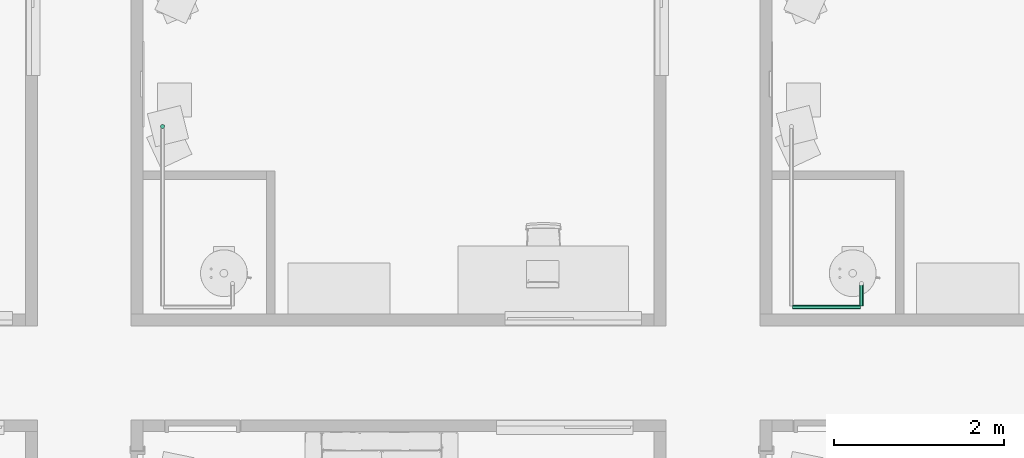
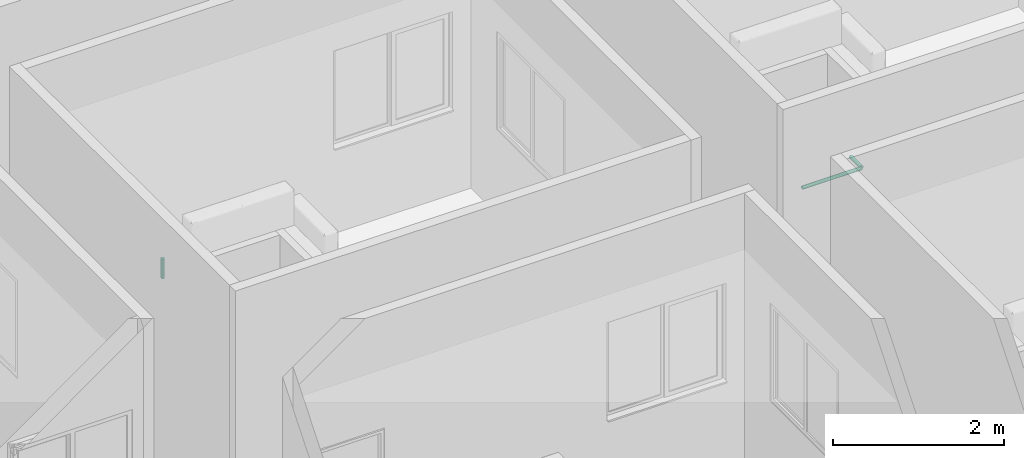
# One storey, part 49 of 72: 3 pipe segments.
"""IFC4 building model written with IfcOpenShell, lengths in centimetres."""

from ifc_helpers import new_model, entity, si_unit, converted_unit, derived_unit, direction, frame, origin, place, context, subcontext, project, spatial, arc, indexed_curve, outline, extrude, type_object, element, save


model = new_model("IFC4")

# Units and contexts
model_context = context("Model", 3, precision=0.001, world=origin(), true_north=direction((6.123233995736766e-17, 1.0)))
body_context = subcontext(model_context, "Body", "Model", "MODEL_VIEW")
ifc_project = project(units=[si_unit("LENGTHUNIT", "METRE", prefix="CENTI"), si_unit("AREAUNIT", "SQUARE_METRE"), si_unit("VOLUMEUNIT", "CUBIC_METRE"), derived_unit("THERMALTRANSMITTANCEUNIT", [(si_unit("MASSUNIT", "GRAM", prefix="KILO"), 1), (si_unit("THERMODYNAMICTEMPERATUREUNIT", "KELVIN"), -1), (si_unit("TIMEUNIT", "SECOND"), -3)]), converted_unit("PLANEANGLEUNIT", "DEGREE", entity("IfcPlaneAngleMeasure", 0.017453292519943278), si_unit("PLANEANGLEUNIT", "RADIAN"), dimensions=[0, 0, 0, 0, 0, 0, 0]), derived_unit("MASSDENSITYUNIT", [(si_unit("MASSUNIT", "GRAM", prefix="KILO"), 1), (si_unit("LENGTHUNIT", "METRE"), -3)]), derived_unit("VAPORPERMEABILITYUNIT", [(si_unit("LENGTHUNIT", "METRE"), -1), (si_unit("TIMEUNIT", "SECOND"), 1)]), derived_unit("USERDEFINED", [(si_unit("MASSUNIT", "GRAM", prefix="KILO"), 1), (si_unit("TIMEUNIT", "SECOND"), -3), (si_unit("LENGTHUNIT", "METRE"), 3), (si_unit("ELECTRICCURRENTUNIT", "AMPERE"), -2)]), derived_unit("SPECIFICHEATCAPACITYUNIT", [(si_unit("THERMODYNAMICTEMPERATUREUNIT", "KELVIN"), -1), (si_unit("LENGTHUNIT", "METRE"), 2), (si_unit("TIMEUNIT", "SECOND"), -2)]), derived_unit("THERMALCONDUCTANCEUNIT", [(si_unit("MASSUNIT", "GRAM", prefix="KILO"), 1), (si_unit("THERMODYNAMICTEMPERATUREUNIT", "KELVIN"), -1), (si_unit("TIMEUNIT", "SECOND"), -3), (si_unit("LENGTHUNIT", "METRE"), 1)]), si_unit("PRESSUREUNIT", "PASCAL"), derived_unit("MODULUSOFELASTICITYUNIT", [(si_unit("MASSUNIT", "GRAM", prefix="KILO"), 1), (si_unit("LENGTHUNIT", "METRE"), -1), (si_unit("TIMEUNIT", "SECOND"), -2)]), derived_unit("THERMALEXPANSIONCOEFFICIENTUNIT", [(si_unit("THERMODYNAMICTEMPERATUREUNIT", "KELVIN"), -1)])], contexts=[model_context])

# Site, building, storey
site_placement = place(None, origin())
site = spatial("IfcSite", under=ifc_project, at=site_placement, Name="Default", CompositionType="ELEMENT")
building_placement = place(site_placement, origin())
building = spatial("IfcBuilding", under=site, at=building_placement, Name="IDS Escape Game Building", CompositionType="ELEMENT")
storey_placement = place(building_placement, frame((0.0, 0.0, 800.0)))
storey = spatial("IfcBuildingStorey", under=building, at=storey_placement, Name="02_Second Floor", CompositionType="ELEMENT", Elevation=800.0)

# Pipe segments
pipe_segment_type = type_object("IfcPipeSegmentType", Name="Pipe Types:Piping Aluminum", PredefinedType="NOTDEFINED")
pipe_segment_1_placement = place(storey_placement, origin())
element("IfcPipeSegment", 1, at=pipe_segment_1_placement, inside=storey, type_object=pipe_segment_type, Name="Pipe Types:Piping Aluminum", ObjectType="Pipe Types:Piping Aluminum", PredefinedType="NOTDEFINED", context=body_context, shape_type="SweptSolid", body=[
    extrude(outline(indexed_curve([(2.412999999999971, 0.0), (1.7062486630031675, 1.7062486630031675), (0.0, 2.412999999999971), (-1.7062486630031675, 1.7062486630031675), (-2.412999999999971, 0.0), (-1.7062486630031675, -1.7062486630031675), (0.0, -2.412999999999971), (1.7062486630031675, -1.7062486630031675)], segments=[arc(1, 2, 3), arc(3, 4, 5), arc(5, 6, 7), arc(7, 8, 1)], self_intersect=False)), frame((1506.0467168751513, 2147.264827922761, 244.09999999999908), z_axis=(0.0, 0.0, 1.0), x_axis=(-1.0, 0.0, 0.0)), (0.0, 0.0, 1.0), 27.90000000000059),
])
pipe_segment_2_placement = place(storey_placement, origin())
element("IfcPipeSegment", 2, at=pipe_segment_2_placement, inside=storey, type_object=pipe_segment_type, Name="Pipe Types:Piping Aluminum", ObjectType="Pipe Types:Piping Aluminum", PredefinedType="NOTDEFINED", context=body_context, shape_type="SweptSolid", body=[
    extrude(outline(indexed_curve([(2.412999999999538, -2.165734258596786e-13), (1.7062486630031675, 1.7062486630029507), (4.331468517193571e-13, 2.4130000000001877), (-1.706248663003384, 1.7062486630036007), (-2.4130000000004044, -2.165734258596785e-13), (-1.7062486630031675, -1.706248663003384), (4.3314685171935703e-13, -2.4129999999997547), (1.7062486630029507, -1.7062486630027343)], segments=[arc(1, 2, 3), arc(3, 4, 5), arc(5, 6, 7), arc(7, 8, 1)], self_intersect=False)), frame((2245.1467168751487, 1935.2648279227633, 242.0), z_axis=(1.0, 0.0, 0.0), x_axis=(0.0, 1.0, 0.0)), (0.0, 0.0, 1.0), 79.90328312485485),
])
pipe_segment_3_placement = place(storey_placement, origin())
element("IfcPipeSegment", 3, at=pipe_segment_3_placement, inside=storey, type_object=pipe_segment_type, Name="Pipe Types:Piping Aluminum", ObjectType="Pipe Types:Piping Aluminum", PredefinedType="NOTDEFINED", context=body_context, shape_type="SweptSolid", body=[
    extrude(outline(indexed_curve([(2.4129999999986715, 0.0), (1.7062486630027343, 1.7062486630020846), (1.7325874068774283e-12, 2.412999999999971), (-1.7062486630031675, 1.7062486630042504), (-2.413000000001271, 0.0), (-1.7062486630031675, -1.7062486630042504), (1.7325874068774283e-12, -2.412999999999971), (1.7062486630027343, -1.7062486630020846)], segments=[arc(1, 2, 3), arc(3, 4, 5), arc(5, 6, 7), arc(7, 8, 1)], self_intersect=False)), frame((2326.1500000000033, 1936.3648279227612, 242.0), z_axis=(0.0, 1.0, 0.0), x_axis=(-1.0, 0.0, 0.0)), (0.0, 0.0, 1.0), 25.435172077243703),
])

save(model, "model.ifc")
